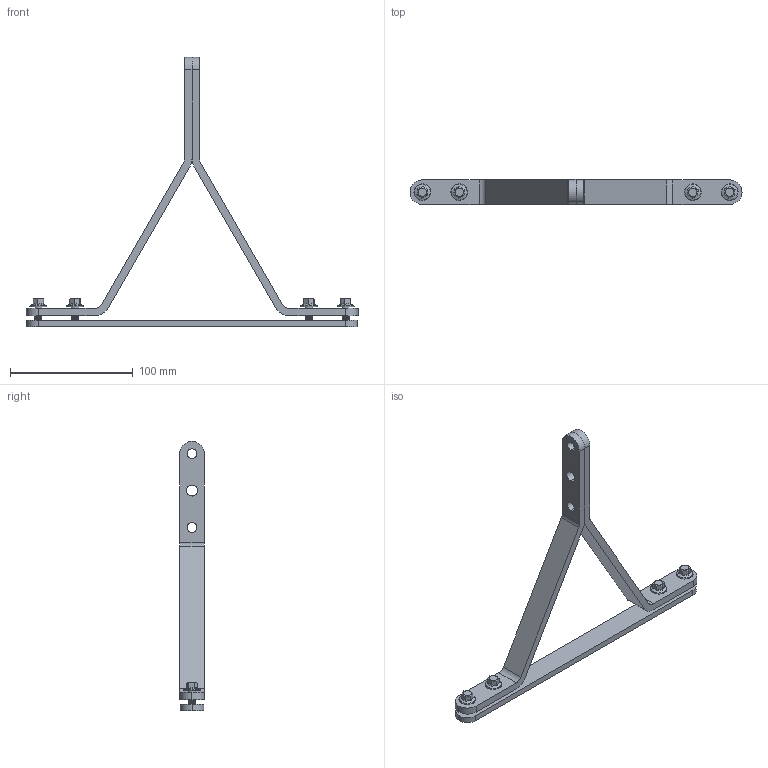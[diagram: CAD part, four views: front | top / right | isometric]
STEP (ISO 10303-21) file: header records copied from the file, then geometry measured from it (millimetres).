
FILE_DESCRIPTION (( 'STEP AP203' ), '1' );
FILE_NAME ('拸諉芛傷ァ奪盓殤.STEP', '2022-02-10T03:27:55', ( '' ), ( '' ), 'SwSTEP 2.0', 'SolidWorks 2017', '' );
FILE_SCHEMA (( 'CONFIG_CONTROL_DESIGN' ));
Length unit declared in the file: millimetre
Products named in the file (4): 拸諉芛傷ァ奪盓殤; 鞠褒楊擘醱蹟邡M6X16_GB_FASTENER_BOLT_HFBSS M6X30-S; ァ奪盓殤; ァ詰盓殤嘐隅沭
Assembly tree (6 placements, depth 2):
  拸諉芛傷ァ奪盓殤
    ァ詰盓殤嘐隅沭
    ァ奪盓殤
    鞠褒楊擘醱蹟邡M6X16_GB_FASTENER_BOLT_HFBSS M6X30-S  x4
Bounding box: 270 x 20 x 219 mm (x, y, z)
Volume: 92720.2 mm3; surface area: 46928.6 mm2
Topology: 7 solids, 7 shells, 685 faces, 1425 edges, 758 vertices
Faces by surface type: cone 376, cylinder 221, plane 56, bspline 24, torus 8
Entity records: 6721 total; most frequent: CARTESIAN_POINT 1230, DIRECTION 1145, ORIENTED_EDGE 978, EDGE_CURVE 489, AXIS2_PLACEMENT_3D 457, VERTEX_POINT 278, EDGE_LOOP 249, CIRCLE 234
